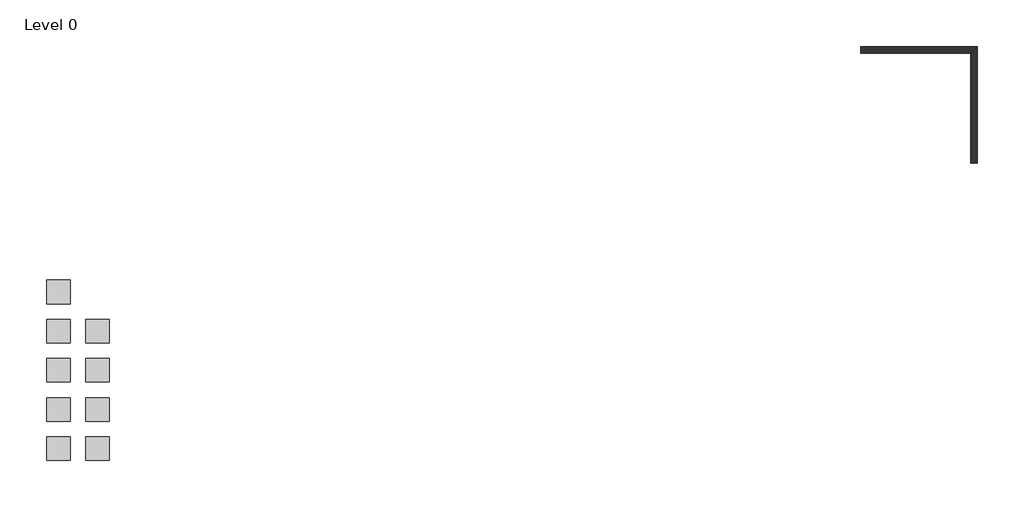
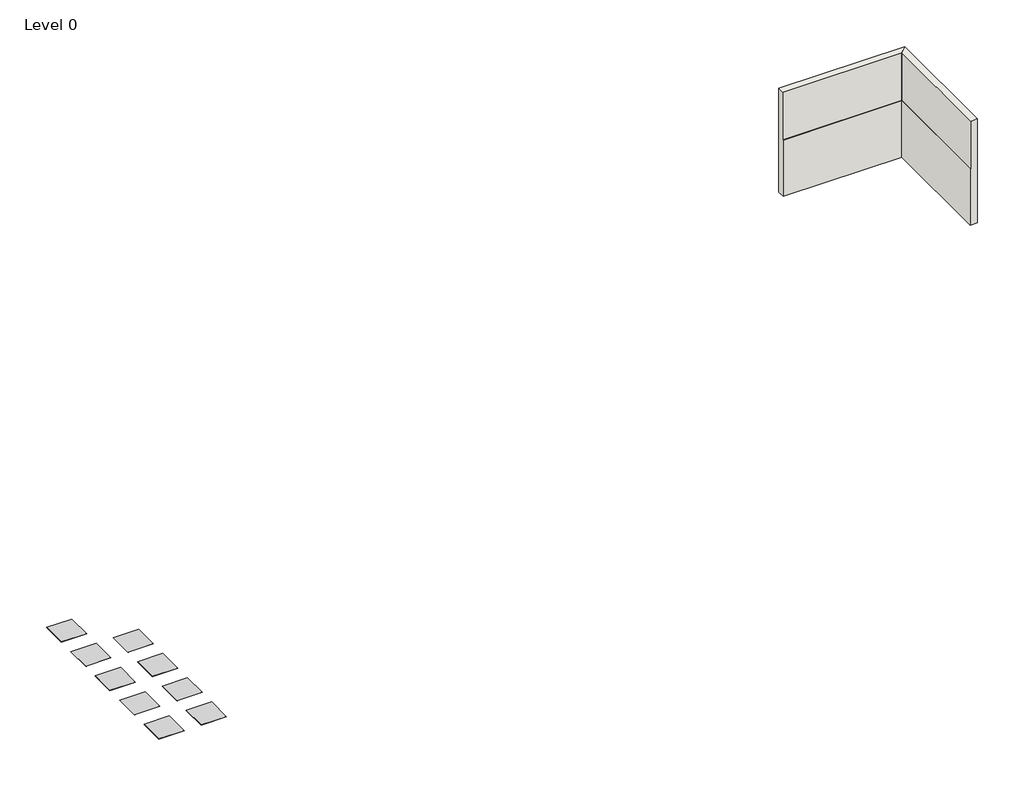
# One storey: 9 proxies, 2 walls.
"""IFC4 building model written with IfcOpenShell, lengths in millimetres."""

import ifcopenshell
import ifcopenshell.guid

model = None  # the IFC model being written
_history = None  # IfcOwnerHistory: only IFC2X3 demands one
_inside = {}  # id of a spatial element -> (the spatial element, [elements in it])
_under = {}  # id of a project, library or spatial element -> (it, [spatial elements below it])
_declared = {}  # id of a project -> (the project, [libraries it declares])
_typed = {}  # id of a type object -> (the type object, [elements of that type])
_made_of = {}  # id of a material, layer set ... -> (it, [elements and type objects made of it])


def new_model(schema):
    """Start an empty IFC model of exactly this schema.

    Asked for "IFC4X3", IfcOpenShell would pick the latest addendum, in which some entities
    have other attributes; the version numbers below select the first issue.
    IFC2X3 requires an IfcOwnerHistory on every rooted entity: one is made here for all.
    """
    global model, _history
    if schema == "IFC4X3":
        model = ifcopenshell.file(schema_version=(4, 3, 0, 0))
    else:
        model = ifcopenshell.file(schema=schema)
    _inside.clear()
    _under.clear()
    _declared.clear()
    _typed.clear()
    _made_of.clear()
    _history = None
    if model.schema == "IFC2X3":
        org = make("IfcOrganization", Name="unknown")
        user = make(
            "IfcPersonAndOrganization",
            ThePerson=make("IfcPerson", FamilyName="unknown"),
            TheOrganization=org,
        )
        app = make(
            "IfcApplication",
            ApplicationDeveloper=org,
            Version="unknown",
            ApplicationFullName="unknown",
            ApplicationIdentifier="unknown",
        )
        _history = make(
            "IfcOwnerHistory",
            OwningUser=user,
            OwningApplication=app,
            ChangeAction="ADDED",
            CreationDate=0,
        )
    return model


def make(cls, **values):
    """One entity of the class cls with the attributes given. An attribute that is None is left unset."""
    return model.create_entity(
        cls, **{name: value for name, value in values.items() if value is not None}
    )


def rooted(cls, **values):
    """An entity with a GlobalId (a new one), such as an element, a storey or a relation."""
    return make(cls, GlobalId=ifcopenshell.guid.new(), OwnerHistory=_history, **values)


def si_unit(unit_type, name, prefix=None):
    """IfcSIUnit, for example si_unit("LENGTHUNIT", "METRE", prefix="MILLI")."""
    return make("IfcSIUnit", UnitType=unit_type, Prefix=prefix, Name=name)


def assignment(units):
    """IfcUnitAssignment: the units of a project."""
    return None if units is None else make("IfcUnitAssignment", Units=units)


def point(xyz):
    """IfcCartesianPoint."""
    return None if xyz is None else make("IfcCartesianPoint", Coordinates=xyz)


def direction(xyz):
    """IfcDirection."""
    return None if xyz is None else make("IfcDirection", DirectionRatios=xyz)


def frame(location, z_axis=None, x_axis=None):
    """IfcAxis2Placement3D, a coordinate frame: its origin and axes. An axis left out is left unset."""
    return make(
        "IfcAxis2Placement3D",
        Location=point(location),
        Axis=direction(z_axis),
        RefDirection=direction(x_axis),
    )


def origin():
    """The frame at (0, 0, 0) with its axes left unset."""
    return frame((0.0, 0.0, 0.0))


def origin_with_axes():
    """The frame at (0, 0, 0) with the z axis (0, 0, 1) and the x axis (1, 0, 0) written out."""
    return frame((0.0, 0.0, 0.0), z_axis=(0.0, 0.0, 1.0), x_axis=(1.0, 0.0, 0.0))


def place(relative_to, where):
    """IfcLocalPlacement: puts the frame where relative to a parent placement (None: the world)."""
    return make(
        "IfcLocalPlacement", PlacementRelTo=relative_to, RelativePlacement=where
    )


def context(
    kind, dimensions, precision=None, world=None, true_north=None, identifier=None
):
    """IfcGeometricRepresentationContext, for example the 3D "Model" context."""
    return make(
        "IfcGeometricRepresentationContext",
        ContextIdentifier=identifier,
        ContextType=kind,
        CoordinateSpaceDimension=dimensions,
        Precision=precision,
        WorldCoordinateSystem=world,
        TrueNorth=true_north,
    )


def project(units=None, contexts=None):
    """IfcProject with its units and contexts."""
    return rooted(
        "IfcProject",
        Name="project",
        RepresentationContexts=contexts,
        UnitsInContext=assignment(units),
    )


def spatial(cls, under=None, at=None, **own):
    """A site, building, storey or space (cls), placed at a placement, below another one or the project."""
    s = rooted(cls, ObjectPlacement=at, **own)
    if under is not None:
        _under.setdefault(under.id(), (under, []))[1].append(s)
    return s


def polyline(points):
    """IfcPolyline through the points."""
    return make("IfcPolyline", Points=[point(p) for p in points])


def outline(outer, holes=None, kind="AREA"):
    """IfcArbitraryClosedProfileDef: a profile drawn as a closed curve; with holes, ...WithVoids."""
    if holes is None:
        return make("IfcArbitraryClosedProfileDef", ProfileType=kind, OuterCurve=outer)
    return make(
        "IfcArbitraryProfileDefWithVoids",
        ProfileType=kind,
        OuterCurve=outer,
        InnerCurves=holes,
    )


def extrude(swept, where, along, depth):
    """IfcExtrudedAreaSolid: the profile swept, set in the frame where, extruded along a direction by depth."""
    return make(
        "IfcExtrudedAreaSolid",
        SweptArea=swept,
        Position=where,
        ExtrudedDirection=direction(along),
        Depth=depth,
    )


def faces_of(points, faces, orient=None, outer=None):
    """IfcFace entities. A face is a list of loops; a loop is a list of indices into points, from 0.

    orient and outer hold one flag for each loop. By default every Orientation is true, the
    first loop of a face is its IfcFaceOuterBound and the others are IfcFaceBound.
    """
    made = []
    for i, loops in enumerate(faces):
        bounds = []
        for j, loop in enumerate(loops):
            is_outer = j == 0 if outer is None else outer[i][j]
            bounds.append(
                make(
                    "IfcFaceOuterBound" if is_outer else "IfcFaceBound",
                    Bound=make("IfcPolyLoop", Polygon=[points[k] for k in loop]),
                    Orientation=True if orient is None else orient[i][j],
                )
            )
        made.append(make("IfcFace", Bounds=bounds))
    return made


def faceted_brep(points, faces, orient=None, outer=None, voids=None):
    """IfcFacetedBrep: a solid bounded by flat faces; with voids (closed shells), ...WithVoids."""
    shared = [point(p) for p in points]
    hull = make("IfcClosedShell", CfsFaces=faces_of(shared, faces, orient, outer))
    if voids is None:
        return make("IfcFacetedBrep", Outer=hull)
    return make(
        "IfcFacetedBrepWithVoids",
        Outer=hull,
        Voids=[
            make(cls, CfsFaces=faces_of(shared, fs, o, b)) for cls, fs, o, b in voids
        ],
    )


def shape(context_of_items, identifier, shape_type, items):
    """IfcShapeRepresentation: the items that make up one representation, for example the "Body"."""
    return make(
        "IfcShapeRepresentation",
        ContextOfItems=context_of_items,
        RepresentationIdentifier=identifier,
        RepresentationType=shape_type,
        Items=items,
    )


def source(mapping_origin, context_of_items, identifier, shape_type, items):
    """IfcRepresentationMap: a shape defined once, which mapped items show again and again."""
    return make(
        "IfcRepresentationMap",
        MappingOrigin=mapping_origin,
        MappedRepresentation=shape(context_of_items, identifier, shape_type, items),
    )


def transform(
    local_origin,
    x_axis=None,
    y_axis=None,
    z_axis=None,
    scale=None,
    scale2=None,
    scale3=None,
    uniform=True,
):
    """IfcCartesianTransformationOperator3D, or its non-uniform kind. x_axis, y_axis, z_axis: its Axis1, 2, 3."""
    if uniform:
        return make(
            "IfcCartesianTransformationOperator3D",
            Axis1=direction(x_axis),
            Axis2=direction(y_axis),
            LocalOrigin=point(local_origin),
            Scale=scale,
            Axis3=direction(z_axis),
        )
    return make(
        "IfcCartesianTransformationOperator3DnonUniform",
        Axis1=direction(x_axis),
        Axis2=direction(y_axis),
        LocalOrigin=point(local_origin),
        Scale=scale,
        Axis3=direction(z_axis),
        Scale2=scale2,
        Scale3=scale3,
    )


def mapped(mapping_source, mapping_target):
    """IfcMappedItem: shows the shape of a source again, moved by a transform."""
    return make(
        "IfcMappedItem", MappingSource=mapping_source, MappingTarget=mapping_target
    )


def made_of(thing, what):
    """Note that an element or type object is made of a material, layer set ...; save() writes the relation."""
    if what is not None:
        _made_of.setdefault(what.id(), (what, []))[1].append(thing)
    return thing


def element(
    cls,
    number,
    at=None,
    inside=None,
    cuts=None,
    type_object=None,
    material=None,
    context=None,
    identifier="Body",
    shape_type=None,
    held_by="IfcProductDefinitionShape",
    body=None,
    shapes=None,
    **own,
):
    """One element of the class cls, such as IfcWall. Its Tag is "e" and its number.

    at: its placement. inside: the storey or other place that contains it. cuts: it is an
    opening in that element (IfcRelVoidsElement). A single representation is given by context,
    identifier, shape_type and body (its items); several are given by shapes. held_by: the class
    of the entity that holds the representations. save() writes the other relations.
    """
    e = rooted(cls, Tag="e%d" % number, ObjectPlacement=at, **own)
    if body is not None:
        shapes = [shape(context, identifier, shape_type, body)]
    if shapes is not None:
        e.Representation = make(held_by, Representations=shapes)
    if inside is not None:
        _inside.setdefault(inside.id(), (inside, []))[1].append(e)
    if cuts is not None:
        rooted(
            "IfcRelVoidsElement", RelatingBuildingElement=cuts, RelatedOpeningElement=e
        )
    if type_object is not None:
        _typed.setdefault(type_object.id(), (type_object, []))[1].append(e)
    return made_of(e, material)


def aggregate(whole, parts):
    """IfcRelAggregates: a whole, such as a stair, and the parts it consists of."""
    return rooted("IfcRelAggregates", RelatingObject=whole, RelatedObjects=parts)


def save(model, path):
    """Write the relations noted so far, then the file.

    IfcRelAggregates (storeys below a building ...), IfcRelContainedInSpatialStructure (elements
    in a storey), IfcRelDefinesByType, IfcRelAssociatesMaterial and IfcRelDeclares: one each for
    every whole, place, type object, material and project.
    """
    for whole, parts in _under.values():
        aggregate(whole, parts)
    for where, things in _inside.values():
        rooted(
            "IfcRelContainedInSpatialStructure",
            RelatedElements=things,
            RelatingStructure=where,
        )
    for kind, things in _typed.values():
        rooted("IfcRelDefinesByType", RelatedObjects=things, RelatingType=kind)
    for what, things in _made_of.values():
        rooted("IfcRelAssociatesMaterial", RelatedObjects=things, RelatingMaterial=what)
    for by, libraries in _declared.values():
        rooted("IfcRelDeclares", RelatingContext=by, RelatedDefinitions=libraries)
    model.write(path)


def generic_models_5de6efd2(model_context):
    return source(origin(), model_context, "Body", "SweptSolid", [
        extrude(outline(polyline([(300.0, 300.0), (300.0, -300.0), (-300.0, -300.0), (-300.0, 300.0), (300.0, 300.0)])), origin_with_axes(), (0.0, 0.0, 1.0), 4.8),
    ])


model = new_model("IFC4")

# Units and contexts
model_context = context("Model", 3, world=origin())
ifc_project = project(units=[si_unit("LENGTHUNIT", "METRE", prefix="MILLI")], contexts=[model_context])

# Site, building, storey
site = spatial("IfcSite", under=ifc_project)
building = spatial("IfcBuilding", under=site)
storey = spatial("IfcBuildingStorey", under=building, Name="Level 0", Elevation=0.0)

# Proxies
placement = place(None, origin())
generic_models_shape = generic_models_5de6efd2(model_context)
element("IfcBuildingElementProxy", 1, Name="Loggia_Placeholder : Loggia_Placeholder", ObjectType="Loggia_Placeholder : Loggia_Placeholder", at=placement, inside=storey, context=model_context, shape_type="MappedRepresentation", body=[
    mapped(generic_models_shape, transform((-16312.7343096, -4404.5120541, 0.0), x_axis=(0.0, -1.0, 0.0), y_axis=(1.0, 0.0, 0.0), z_axis=(0.0, 0.0, 1.0))),
])
element("IfcBuildingElementProxy", 2, Name="Loggia_Placeholder : Loggia_Placeholder", ObjectType="Loggia_Placeholder : Loggia_Placeholder", at=placement, inside=storey, context=model_context, shape_type="MappedRepresentation", body=[
    mapped(generic_models_shape, transform((-16312.7343096, -5404.5120541, 0.0), x_axis=(0.0, -1.0, 0.0), y_axis=(1.0, 0.0, 0.0), z_axis=(0.0, 0.0, 1.0))),
])
element("IfcBuildingElementProxy", 3, Name="Loggia_Placeholder : Loggia_Placeholder", ObjectType="Loggia_Placeholder : Loggia_Placeholder", at=placement, inside=storey, context=model_context, shape_type="MappedRepresentation", body=[
    mapped(generic_models_shape, transform((-15312.7343096, -5404.5120541, 0.0), x_axis=(0.0, -1.0, 0.0), y_axis=(1.0, 0.0, 0.0), z_axis=(0.0, 0.0, 1.0))),
])
element("IfcBuildingElementProxy", 4, Name="Loggia_Placeholder : Loggia_Placeholder", ObjectType="Loggia_Placeholder : Loggia_Placeholder", at=placement, inside=storey, context=model_context, shape_type="MappedRepresentation", body=[
    mapped(generic_models_shape, transform((-16312.7343096, -6404.5120541, 0.0), x_axis=(0.0, -1.0, 0.0), y_axis=(1.0, 0.0, 0.0), z_axis=(0.0, 0.0, 1.0))),
])
element("IfcBuildingElementProxy", 5, Name="Loggia_Placeholder : Loggia_Placeholder", ObjectType="Loggia_Placeholder : Loggia_Placeholder", at=placement, inside=storey, context=model_context, shape_type="MappedRepresentation", body=[
    mapped(generic_models_shape, transform((-15312.7343096, -6404.5120541, 0.0), x_axis=(0.0, -1.0, 0.0), y_axis=(1.0, 0.0, 0.0), z_axis=(0.0, 0.0, 1.0))),
])
element("IfcBuildingElementProxy", 6, Name="Loggia_Placeholder : Loggia_Placeholder", ObjectType="Loggia_Placeholder : Loggia_Placeholder", at=placement, inside=storey, context=model_context, shape_type="MappedRepresentation", body=[
    mapped(generic_models_shape, transform((-16312.7343096, -7404.5120541, 0.0), x_axis=(0.0, -1.0, 0.0), y_axis=(1.0, 0.0, 0.0), z_axis=(0.0, 0.0, 1.0))),
])
element("IfcBuildingElementProxy", 7, Name="Loggia_Placeholder : Loggia_Placeholder", ObjectType="Loggia_Placeholder : Loggia_Placeholder", at=placement, inside=storey, context=model_context, shape_type="MappedRepresentation", body=[
    mapped(generic_models_shape, transform((-15312.7343096, -7404.5120541, 0.0), x_axis=(0.0, -1.0, 0.0), y_axis=(1.0, 0.0, 0.0), z_axis=(0.0, 0.0, 1.0))),
])
element("IfcBuildingElementProxy", 8, Name="Loggia_Placeholder : Loggia_Placeholder", ObjectType="Loggia_Placeholder : Loggia_Placeholder", at=placement, inside=storey, context=model_context, shape_type="MappedRepresentation", body=[
    mapped(generic_models_shape, transform((-16312.7343096, -8404.5120541, 0.0), x_axis=(0.0, -1.0, 0.0), y_axis=(1.0, 0.0, 0.0), z_axis=(0.0, 0.0, 1.0))),
])
element("IfcBuildingElementProxy", 9, Name="Loggia_Placeholder : Loggia_Placeholder", ObjectType="Loggia_Placeholder : Loggia_Placeholder", at=placement, inside=storey, context=model_context, shape_type="MappedRepresentation", body=[
    mapped(generic_models_shape, transform((-15312.7343096, -8404.5120541, 0.0), x_axis=(0.0, -1.0, 0.0), y_axis=(1.0, 0.0, 0.0), z_axis=(0.0, 0.0, 1.0))),
])

# Walls
element("IfcWall", 10, ObjectType="Wall_Generic_Loggia-Showcase", at=placement, inside=storey, context=model_context, shape_type="Brep", body=[
    faceted_brep([(4160.5903752, 1688.5585818, 0.0), (6964.5903752, 1688.5585818, 0.0), (6964.5903752, 1688.5585818, 1406.4126577), (4160.5903752, 1688.5585818, 1406.4126577), (4160.5903752, 1864.5585818, 0.0), (4160.5903752, 1864.5585818, 2600.0), (7140.5903752, 1864.5585818, 2600.0), (7140.5903752, 1864.5585818, 0.0), (4160.5903752, 1704.5585818, 1406.4126577), (4160.5903752, 1704.5585818, 2600.0), (6980.5903752, 1704.5585818, 2600.0), (6980.5903752, 1704.5585818, 1406.4126577)], [[[0, 1, 2, 3]], [[4, 5, 6, 7]], [[1, 0, 4, 7]], [[0, 3, 8, 9, 5, 4]], [[10, 6, 5, 9]], [[8, 11, 10, 9]], [[3, 2, 11, 8]], [[2, 1, 7, 6, 10, 11]]]),
])
element("IfcWall", 11, ObjectType="Wall_Generic_Loggia-Showcase", at=placement, inside=storey, context=model_context, shape_type="Brep", body=[
    faceted_brep([(6964.5903752, 1688.5585818, 0.0), (6964.5903752, -1115.4414182, 0.0), (6964.5903752, -1115.4414182, 1406.4126577), (6964.5903752, 1688.5585818, 1406.4126577), (7140.5903752, 1864.5585818, 0.0), (7140.5903752, 1864.5585818, 2600.0), (7140.5903752, -1115.4414182, 2600.0), (7140.5903752, -1115.4414182, 0.0), (6980.5903752, -1115.4414182, 2600.0), (6980.5903752, -1115.4414182, 1406.4126577), (6980.5903752, 1704.5585818, 2600.0), (6980.5903752, 1704.5585818, 1406.4126577)], [[[0, 1, 2, 3]], [[4, 5, 6, 7]], [[1, 0, 4, 7]], [[2, 1, 7, 6, 8, 9]], [[8, 6, 5, 10]], [[11, 9, 8, 10]], [[3, 2, 9, 11]], [[0, 3, 11, 10, 5, 4]]]),
])

save(model, "model.ifc")
